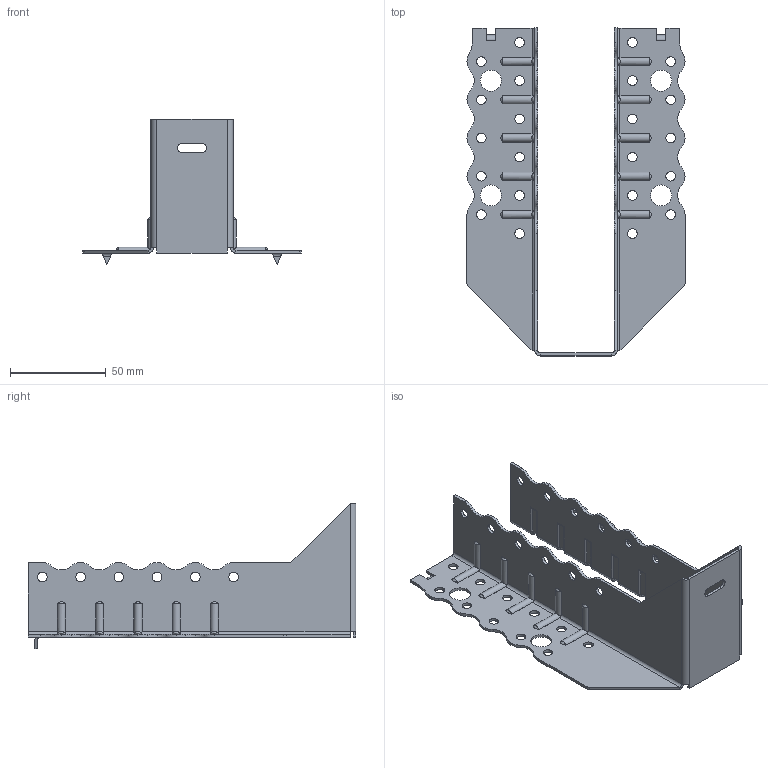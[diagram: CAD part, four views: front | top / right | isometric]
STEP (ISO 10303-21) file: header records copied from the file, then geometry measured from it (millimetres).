
FILE_DESCRIPTION (( 'STEP AP203' ), '1' );
FILE_NAME ('30656TOP.STEP', '2021-04-06T17:33:48', ( '' ), ( '' ), 'SwSTEP 2.0', 'SolidWorks 2013', '' );
FILE_SCHEMA (( 'CONFIG_CONTROL_DESIGN' ));
Length unit declared in the file: millimetre
Products named in the file (1): 30656TOP
Bounding box: 114 x 171.5 x 76 mm (x, y, z)
Volume: 38767.6 mm3; surface area: 55124.4 mm2
Topology: 1 solids, 1 shells, 428 faces, 1154 edges, 728 vertices
Faces by surface type: cylinder 269, plane 119, torus 20, bspline 20
Entity records: 15880 total; most frequent: CARTESIAN_POINT 5007, ORIENTED_EDGE 2308, DIRECTION 2228, EDGE_CURVE 1154, AXIS2_PLACEMENT_3D 813, VERTEX_POINT 728, VECTOR 602, LINE 602
